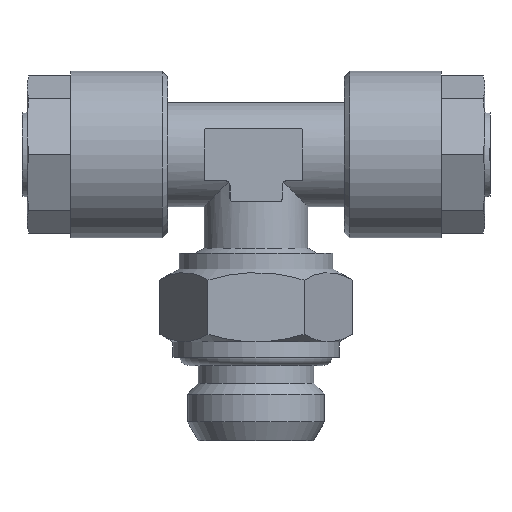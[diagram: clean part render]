
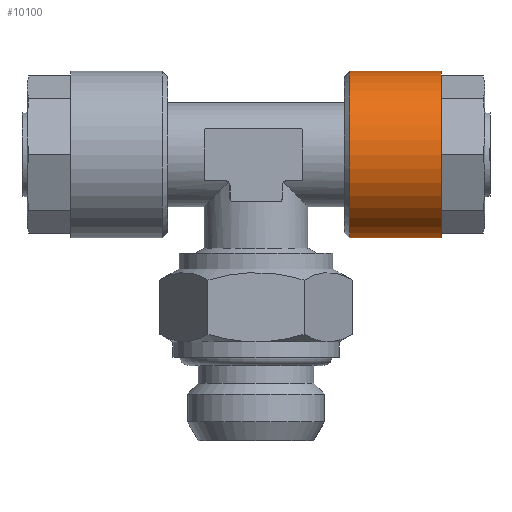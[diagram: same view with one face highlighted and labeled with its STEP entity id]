
A CAD part, front view. The second image highlights one B-rep face of the part: STEP entity #10100.
In plain terms, the highlighted cylindrical face has radius 8 mm (diameter 16 mm), a full revolution.
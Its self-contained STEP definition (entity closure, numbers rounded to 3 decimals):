
#3593=ORIENTED_EDGE('',*,*,#4274,.F.);
#3594=ORIENTED_EDGE('',*,*,#4273,.T.);
#3861=CIRCLE('',#9846,8.);
#3862=CIRCLE('',#9848,8.);
#4027=VERTEX_POINT('',#9436);
#4028=VERTEX_POINT('',#9439);
#4273=EDGE_CURVE('',#4027,#4027,#3861,.T.);
#4274=EDGE_CURVE('',#4028,#4028,#3862,.T.);
#4506=EDGE_LOOP('',(#3593));
#4507=EDGE_LOOP('',(#3594));
#4714=FACE_BOUND('',#4506,.T.);
#4715=FACE_BOUND('',#4507,.T.);
#5220=DIRECTION('',(0.,1.,0.));
#5221=DIRECTION('',(0.,0.,-8.));
#5222=DIRECTION('',(0.,1.,0.));
#5223=DIRECTION('',(1.,0.,0.));
#5224=DIRECTION('',(0.,1.,0.));
#5225=DIRECTION('',(0.,0.,8.));
#9436=CARTESIAN_POINT('',(26.989,15.095,-8.));
#9437=CARTESIAN_POINT('',(26.989,15.095,0.));
#9438=CARTESIAN_POINT('',(26.989,15.095,0.));
#9439=CARTESIAN_POINT('',(26.989,23.895,8.));
#9440=CARTESIAN_POINT('',(26.989,23.895,0.));
#9846=AXIS2_PLACEMENT_3D('',#9437,#5220,#5221);
#9847=AXIS2_PLACEMENT_3D('',#9438,#5222,#5223);
#9848=AXIS2_PLACEMENT_3D('',#9440,#5224,#5225);
#10004=CYLINDRICAL_SURFACE('',#9847,8.);
#10100=ADVANCED_FACE('',(#4714,#4715),#10004,.T.);
